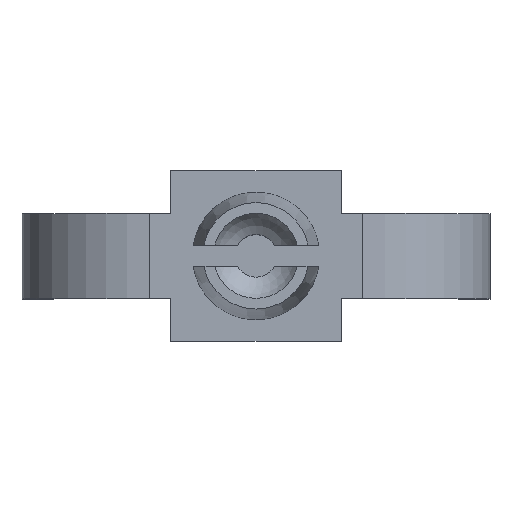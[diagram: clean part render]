
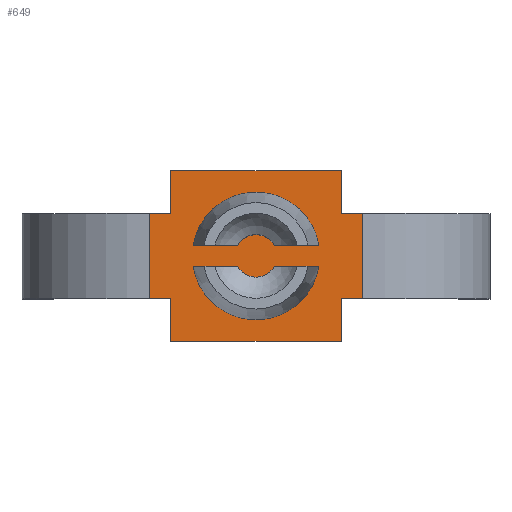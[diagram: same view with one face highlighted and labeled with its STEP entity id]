
A CAD part, top view. The second image highlights one B-rep face of the part: STEP entity #649.
In plain terms, the highlighted planar face has unit normal (0, 0, 1).
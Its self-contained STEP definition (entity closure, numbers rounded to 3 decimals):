
#19=LINE('',#951,#83);
#24=LINE('',#969,#88);
#25=LINE('',#977,#89);
#30=LINE('',#995,#94);
#31=LINE('',#999,#95);
#32=LINE('',#1001,#96);
#33=LINE('',#1003,#97);
#34=LINE('',#1005,#98);
#35=LINE('',#1007,#99);
#36=LINE('',#1009,#100);
#37=LINE('',#1011,#101);
#38=LINE('',#1013,#102);
#39=LINE('',#1015,#103);
#40=LINE('',#1017,#104);
#41=LINE('',#1019,#105);
#42=LINE('',#1020,#106);
#83=VECTOR('',#759,4.184);
#88=VECTOR('',#770,4.184);
#89=VECTOR('',#773,4.184);
#94=VECTOR('',#784,4.184);
#95=VECTOR('',#787,8.);
#96=VECTOR('',#788,2.);
#97=VECTOR('',#789,4.);
#98=VECTOR('',#790,16.);
#99=VECTOR('',#791,4.);
#100=VECTOR('',#792,2.);
#101=VECTOR('',#793,8.);
#102=VECTOR('',#794,2.);
#103=VECTOR('',#795,4.);
#104=VECTOR('',#796,16.);
#105=VECTOR('',#797,4.);
#106=VECTOR('',#798,2.);
#155=PLANE('',#695);
#177=FACE_BOUND('',#228,.T.);
#178=FACE_BOUND('',#229,.T.);
#189=FACE_OUTER_BOUND('',#227,.T.);
#227=EDGE_LOOP('',(#471,#472,#473,#474,#475,#476,#477,#478,#479,#480,#481,
#482));
#228=EDGE_LOOP('',(#483,#484,#485,#486));
#229=EDGE_LOOP('',(#487,#488,#489,#490));
#271=CIRCLE('',#696,6.);
#272=CIRCLE('',#697,2.);
#273=CIRCLE('',#698,2.);
#274=CIRCLE('',#699,6.);
#293=VERTEX_POINT('',#945);
#295=VERTEX_POINT('',#950);
#299=VERTEX_POINT('',#959);
#302=VERTEX_POINT('',#967);
#303=VERTEX_POINT('',#971);
#305=VERTEX_POINT('',#976);
#309=VERTEX_POINT('',#985);
#312=VERTEX_POINT('',#993);
#313=VERTEX_POINT('',#997);
#314=VERTEX_POINT('',#998);
#315=VERTEX_POINT('',#1000);
#316=VERTEX_POINT('',#1002);
#317=VERTEX_POINT('',#1004);
#318=VERTEX_POINT('',#1006);
#319=VERTEX_POINT('',#1008);
#320=VERTEX_POINT('',#1010);
#321=VERTEX_POINT('',#1012);
#322=VERTEX_POINT('',#1014);
#323=VERTEX_POINT('',#1016);
#324=VERTEX_POINT('',#1018);
#358=EDGE_CURVE('',#293,#295,#19,.T.);
#366=EDGE_CURVE('',#302,#299,#24,.T.);
#368=EDGE_CURVE('',#303,#305,#25,.T.);
#376=EDGE_CURVE('',#312,#309,#30,.T.);
#377=EDGE_CURVE('',#313,#314,#31,.T.);
#378=EDGE_CURVE('',#313,#315,#32,.T.);
#379=EDGE_CURVE('',#315,#316,#33,.T.);
#380=EDGE_CURVE('',#316,#317,#34,.T.);
#381=EDGE_CURVE('',#317,#318,#35,.T.);
#382=EDGE_CURVE('',#318,#319,#36,.T.);
#383=EDGE_CURVE('',#320,#319,#37,.T.);
#384=EDGE_CURVE('',#320,#321,#38,.T.);
#385=EDGE_CURVE('',#321,#322,#39,.T.);
#386=EDGE_CURVE('',#322,#323,#40,.T.);
#387=EDGE_CURVE('',#323,#324,#41,.T.);
#388=EDGE_CURVE('',#324,#314,#42,.T.);
#389=EDGE_CURVE('',#303,#299,#271,.T.);
#390=EDGE_CURVE('',#302,#305,#272,.T.);
#391=EDGE_CURVE('',#312,#295,#273,.T.);
#392=EDGE_CURVE('',#293,#309,#274,.T.);
#471=ORIENTED_EDGE('',*,*,#377,.F.);
#472=ORIENTED_EDGE('',*,*,#378,.T.);
#473=ORIENTED_EDGE('',*,*,#379,.T.);
#474=ORIENTED_EDGE('',*,*,#380,.T.);
#475=ORIENTED_EDGE('',*,*,#381,.T.);
#476=ORIENTED_EDGE('',*,*,#382,.T.);
#477=ORIENTED_EDGE('',*,*,#383,.F.);
#478=ORIENTED_EDGE('',*,*,#384,.T.);
#479=ORIENTED_EDGE('',*,*,#385,.T.);
#480=ORIENTED_EDGE('',*,*,#386,.T.);
#481=ORIENTED_EDGE('',*,*,#387,.T.);
#482=ORIENTED_EDGE('',*,*,#388,.T.);
#483=ORIENTED_EDGE('',*,*,#389,.T.);
#484=ORIENTED_EDGE('',*,*,#366,.F.);
#485=ORIENTED_EDGE('',*,*,#390,.T.);
#486=ORIENTED_EDGE('',*,*,#368,.F.);
#487=ORIENTED_EDGE('',*,*,#376,.F.);
#488=ORIENTED_EDGE('',*,*,#391,.T.);
#489=ORIENTED_EDGE('',*,*,#358,.F.);
#490=ORIENTED_EDGE('',*,*,#392,.T.);
#649=ADVANCED_FACE('',(#189,#177,#178),#155,.T.);
#695=AXIS2_PLACEMENT_3D('',#996,#785,#786);
#696=AXIS2_PLACEMENT_3D('',#1021,#799,#800);
#697=AXIS2_PLACEMENT_3D('',#1022,#801,#802);
#698=AXIS2_PLACEMENT_3D('',#1023,#803,#804);
#699=AXIS2_PLACEMENT_3D('',#1024,#805,#806);
#759=DIRECTION('',(1.,0.,0.));
#770=DIRECTION('',(-1.,0.,0.));
#773=DIRECTION('',(-1.,0.,0.));
#784=DIRECTION('',(1.,0.,0.));
#785=DIRECTION('center_axis',(0.,0.,1.));
#786=DIRECTION('ref_axis',(1.,0.,0.));
#787=DIRECTION('',(0.,1.,0.));
#788=DIRECTION('',(1.,0.,0.));
#789=DIRECTION('',(0.,-1.,0.));
#790=DIRECTION('',(1.,0.,0.));
#791=DIRECTION('',(0.,1.,0.));
#792=DIRECTION('',(1.,0.,0.));
#793=DIRECTION('',(0.,-1.,0.));
#794=DIRECTION('',(-1.,0.,0.));
#795=DIRECTION('',(0.,1.,0.));
#796=DIRECTION('',(-1.,0.,0.));
#797=DIRECTION('',(0.,-1.,0.));
#798=DIRECTION('',(-1.,0.,0.));
#799=DIRECTION('center_axis',(0.,0.,-1.));
#800=DIRECTION('ref_axis',(0.,1.,0.));
#801=DIRECTION('center_axis',(0.,0.,1.));
#802=DIRECTION('ref_axis',(0.,1.,0.));
#803=DIRECTION('center_axis',(0.,0.,1.));
#804=DIRECTION('ref_axis',(0.,1.,0.));
#805=DIRECTION('center_axis',(0.,0.,-1.));
#806=DIRECTION('ref_axis',(0.,1.,0.));
#945=CARTESIAN_POINT('',(-5.916,1.,3.));
#950=CARTESIAN_POINT('',(-1.732,1.,3.));
#951=CARTESIAN_POINT('',(-3.,1.,3.));
#959=CARTESIAN_POINT('',(-5.916,-1.,3.));
#967=CARTESIAN_POINT('',(-1.732,-1.,3.));
#969=CARTESIAN_POINT('',(3.,-1.,3.));
#971=CARTESIAN_POINT('',(5.916,-1.,3.));
#976=CARTESIAN_POINT('',(1.732,-1.,3.));
#977=CARTESIAN_POINT('',(3.,-1.,3.));
#985=CARTESIAN_POINT('',(5.916,1.,3.));
#993=CARTESIAN_POINT('',(1.732,1.,3.));
#995=CARTESIAN_POINT('',(-3.,1.,3.));
#996=CARTESIAN_POINT('Origin',(0.,0.,3.));
#997=CARTESIAN_POINT('',(-10.,-4.,3.));
#998=CARTESIAN_POINT('',(-10.,4.,3.));
#999=CARTESIAN_POINT('',(-10.,2.,3.));
#1000=CARTESIAN_POINT('',(-8.,-4.,3.));
#1001=CARTESIAN_POINT('',(-22.,-4.,3.));
#1002=CARTESIAN_POINT('',(-8.,-8.,3.));
#1003=CARTESIAN_POINT('',(-8.,8.,3.));
#1004=CARTESIAN_POINT('',(8.,-8.,3.));
#1005=CARTESIAN_POINT('',(-8.,-8.,3.));
#1006=CARTESIAN_POINT('',(8.,-4.,3.));
#1007=CARTESIAN_POINT('',(8.,-8.,3.));
#1008=CARTESIAN_POINT('',(10.,-4.,3.));
#1009=CARTESIAN_POINT('',(-22.,-4.,3.));
#1010=CARTESIAN_POINT('',(10.,4.,3.));
#1011=CARTESIAN_POINT('',(10.,-2.,3.));
#1012=CARTESIAN_POINT('',(8.,4.,3.));
#1013=CARTESIAN_POINT('',(22.,4.,3.));
#1014=CARTESIAN_POINT('',(8.,8.,3.));
#1015=CARTESIAN_POINT('',(8.,-8.,3.));
#1016=CARTESIAN_POINT('',(-8.,8.,3.));
#1017=CARTESIAN_POINT('',(8.,8.,3.));
#1018=CARTESIAN_POINT('',(-8.,4.,3.));
#1019=CARTESIAN_POINT('',(-8.,8.,3.));
#1020=CARTESIAN_POINT('',(22.,4.,3.));
#1021=CARTESIAN_POINT('Origin',(0.,0.,3.));
#1022=CARTESIAN_POINT('Origin',(0.,0.,3.));
#1023=CARTESIAN_POINT('Origin',(0.,0.,3.));
#1024=CARTESIAN_POINT('Origin',(0.,0.,3.));
